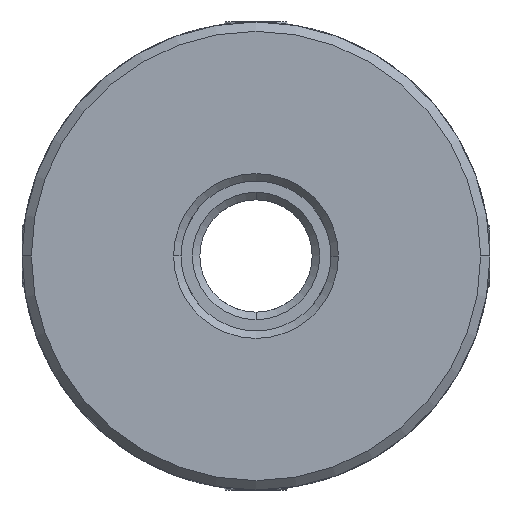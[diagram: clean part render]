
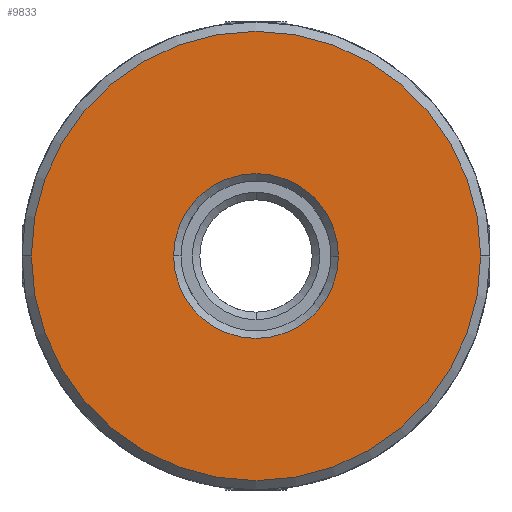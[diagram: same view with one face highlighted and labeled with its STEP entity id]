
A CAD part, front view. The second image highlights one B-rep face of the part: STEP entity #9833.
In plain terms, the highlighted planar face has unit normal (0, -1, 0).
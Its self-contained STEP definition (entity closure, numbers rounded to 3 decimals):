
#156 = CIRCLE ( 'NONE', #2791, 4.4 ) ;
#335 = CARTESIAN_POINT ( 'NONE',  ( 0., -28., 0. ) ) ;
#371 = DIRECTION ( 'NONE',  ( 0., 1., 0. ) ) ;
#395 = CARTESIAN_POINT ( 'NONE',  ( 0., -28., 0. ) ) ;
#788 = CARTESIAN_POINT ( 'NONE',  ( 0., -28., 0. ) ) ;
#953 = FACE_OUTER_BOUND ( 'NONE', #8110, .T. ) ;
#1272 = DIRECTION ( 'NONE',  ( 0., -1., 0. ) ) ;
#1593 = AXIS2_PLACEMENT_3D ( 'NONE', #788, #9152, #8359 ) ;
#1972 = ORIENTED_EDGE ( 'NONE', *, *, #8241, .T. ) ;
#2011 = DIRECTION ( 'NONE',  ( -1., 0., 0. ) ) ;
#2258 = CARTESIAN_POINT ( 'NONE',  ( 0., -28., 0. ) ) ;
#2679 = DIRECTION ( 'NONE',  ( -1., 0., 0. ) ) ;
#2791 = AXIS2_PLACEMENT_3D ( 'NONE', #335, #371, #4199 ) ;
#3104 = EDGE_CURVE ( 'NONE', #3718, #3957, #8146, .T. ) ;
#3133 = CARTESIAN_POINT ( 'NONE',  ( -12., -28., 0. ) ) ;
#3447 = PLANE ( 'NONE',  #9122 ) ;
#3718 = VERTEX_POINT ( 'NONE', #8486 ) ;
#3729 = ORIENTED_EDGE ( 'NONE', *, *, #7391, .T. ) ;
#3957 = VERTEX_POINT ( 'NONE', #5925 ) ;
#4016 = CIRCLE ( 'NONE', #1593, 12. ) ;
#4199 = DIRECTION ( 'NONE',  ( -1., 0., 0. ) ) ;
#4688 = EDGE_CURVE ( 'NONE', #9716, #4774, #4016, .T. ) ;
#4738 = AXIS2_PLACEMENT_3D ( 'NONE', #2258, #5280, #8375 ) ;
#4774 = VERTEX_POINT ( 'NONE', #3133 ) ;
#4959 = CARTESIAN_POINT ( 'NONE',  ( -19.597, -28., -50. ) ) ;
#5262 = ORIENTED_EDGE ( 'NONE', *, *, #3104, .T. ) ;
#5280 = DIRECTION ( 'NONE',  ( 0., 1., 0. ) ) ;
#5860 = DIRECTION ( 'NONE',  ( 0., 1., 0. ) ) ;
#5925 = CARTESIAN_POINT ( 'NONE',  ( -4.4, -28., 0. ) ) ;
#5933 = CIRCLE ( 'NONE', #9508, 12. ) ;
#6732 = EDGE_LOOP ( 'NONE', ( #5262, #1972 ) ) ;
#7311 = ORIENTED_EDGE ( 'NONE', *, *, #4688, .T. ) ;
#7391 = EDGE_CURVE ( 'NONE', #4774, #9716, #5933, .T. ) ;
#8015 = CARTESIAN_POINT ( 'NONE',  ( 12., -28., 0. ) ) ;
#8110 = EDGE_LOOP ( 'NONE', ( #3729, #7311 ) ) ;
#8146 = CIRCLE ( 'NONE', #4738, 4.4 ) ;
#8241 = EDGE_CURVE ( 'NONE', #3957, #3718, #156, .T. ) ;
#8359 = DIRECTION ( 'NONE',  ( -1., 0., 0. ) ) ;
#8375 = DIRECTION ( 'NONE',  ( -1., 0., 0. ) ) ;
#8486 = CARTESIAN_POINT ( 'NONE',  ( 4.4, -28., 0. ) ) ;
#8870 = FACE_BOUND ( 'NONE', #6732, .T. ) ;
#9122 = AXIS2_PLACEMENT_3D ( 'NONE', #4959, #5860, #2011 ) ;
#9152 = DIRECTION ( 'NONE',  ( 0., -1., 0. ) ) ;
#9508 = AXIS2_PLACEMENT_3D ( 'NONE', #395, #1272, #2679 ) ;
#9716 = VERTEX_POINT ( 'NONE', #8015 ) ;
#9833 = ADVANCED_FACE ( 'NONE', ( #953, #8870 ), #3447, .F. ) ;
